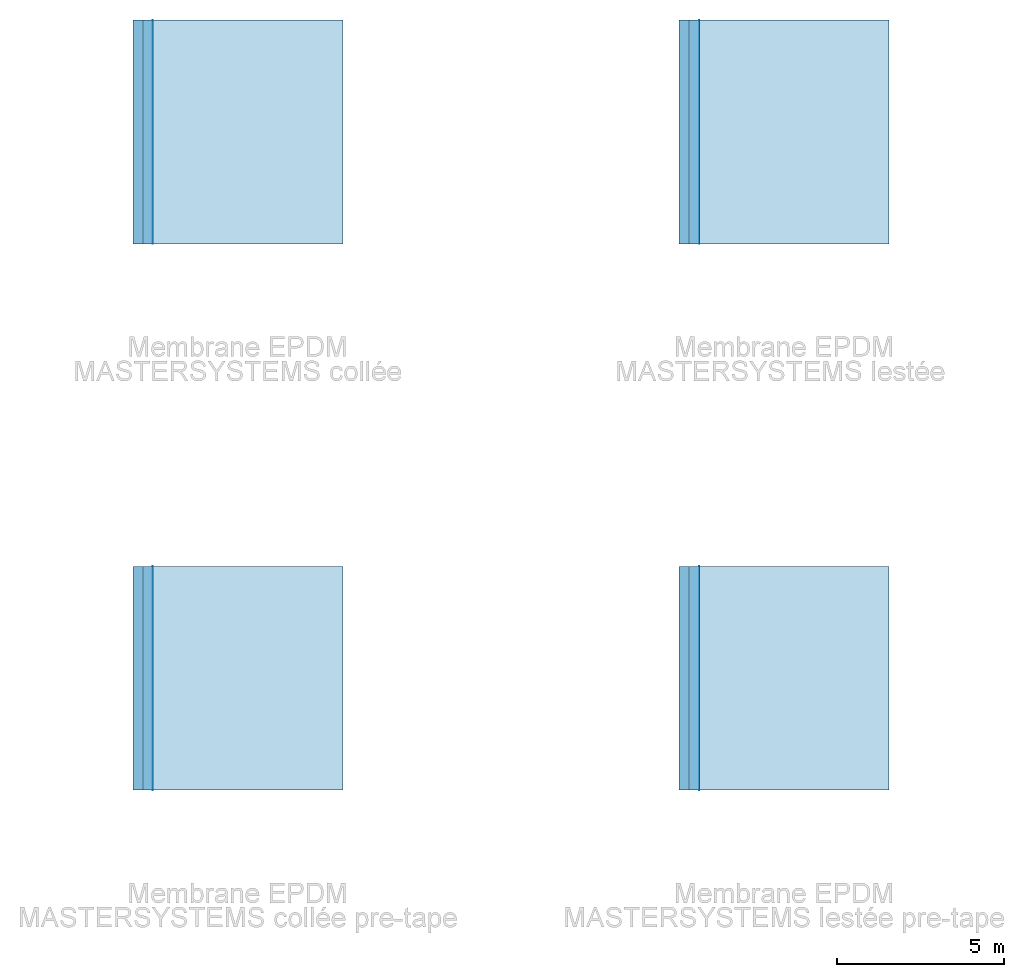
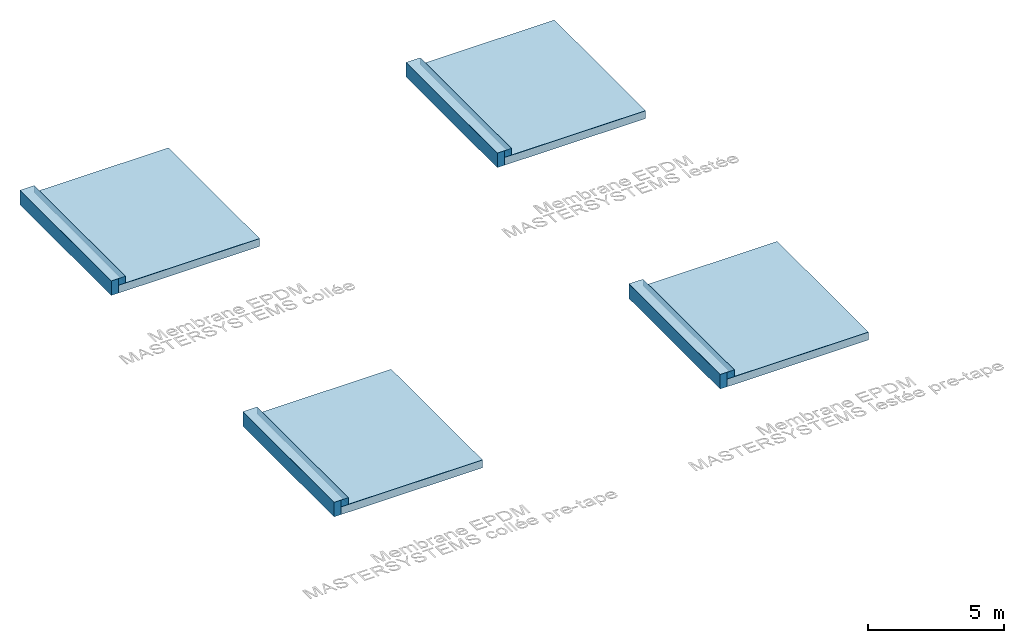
# One storey, incomplete: 12 slabs, 12 walls, 12 elements without a shape of their own.
"""IFC2X3 building model written with IfcOpenShell, lengths in millimetres."""

from ifc_helpers import new_model, entity, si_unit, converted_unit, derived_unit, direction, frame, frame_2d, origin, place, context, subcontext, project, spatial, polyline, rectangle, extrude, clip, bounded_halfspace, material, layer, layer_set, layer_usage, type_object, element, aggregate, save


model = new_model("IFC2X3")

# Units and contexts
model_context = context("Model", 3, precision=0.01, world=origin(), true_north=direction((6.12303176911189e-17, 1.0)))
body_context = subcontext(model_context, "Body", "Model", "MODEL_VIEW")
ifc_project = project(units=[si_unit("LENGTHUNIT", "METRE", prefix="MILLI"), si_unit("AREAUNIT", "SQUARE_METRE"), si_unit("VOLUMEUNIT", "CUBIC_METRE"), converted_unit("PLANEANGLEUNIT", "DEGREE", entity("IfcRatioMeasure", 0.0174532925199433), si_unit("PLANEANGLEUNIT", "RADIAN"), dimensions=[0, 0, 0, 0, 0, 0, 0]), si_unit("MASSUNIT", "GRAM", prefix="KILO"), derived_unit("MASSDENSITYUNIT", [(si_unit("MASSUNIT", "GRAM", prefix="KILO"), 1), (si_unit("LENGTHUNIT", "METRE"), -3)]), derived_unit("MOMENTOFINERTIAUNIT", [(si_unit("LENGTHUNIT", "METRE"), 4)]), si_unit("TIMEUNIT", "SECOND"), si_unit("FREQUENCYUNIT", "HERTZ"), si_unit("THERMODYNAMICTEMPERATUREUNIT", "DEGREE_CELSIUS"), derived_unit("THERMALTRANSMITTANCEUNIT", [(si_unit("MASSUNIT", "GRAM", prefix="KILO"), 1), (si_unit("THERMODYNAMICTEMPERATUREUNIT", "KELVIN"), -1), (si_unit("TIMEUNIT", "SECOND"), -3)]), derived_unit("VOLUMETRICFLOWRATEUNIT", [(si_unit("LENGTHUNIT", "METRE"), 3), (si_unit("TIMEUNIT", "SECOND"), -1)]), si_unit("ELECTRICCURRENTUNIT", "AMPERE"), si_unit("ELECTRICVOLTAGEUNIT", "VOLT"), si_unit("POWERUNIT", "WATT"), si_unit("FORCEUNIT", "NEWTON", prefix="KILO"), si_unit("ILLUMINANCEUNIT", "LUX"), si_unit("LUMINOUSFLUXUNIT", "LUMEN"), si_unit("LUMINOUSINTENSITYUNIT", "CANDELA"), derived_unit("USERDEFINED", [(si_unit("MASSUNIT", "GRAM", prefix="KILO"), -1), (si_unit("LENGTHUNIT", "METRE"), -2), (si_unit("TIMEUNIT", "SECOND"), 3), (si_unit("LUMINOUSFLUXUNIT", "LUMEN"), 1)]), derived_unit("LINEARVELOCITYUNIT", [(si_unit("LENGTHUNIT", "METRE"), 1), (si_unit("TIMEUNIT", "SECOND"), -1)]), si_unit("PRESSUREUNIT", "PASCAL"), derived_unit("USERDEFINED", [(si_unit("LENGTHUNIT", "METRE"), -2), (si_unit("MASSUNIT", "GRAM", prefix="KILO"), 1), (si_unit("TIMEUNIT", "SECOND"), -2)]), derived_unit("LINEARFORCEUNIT", [(si_unit("MASSUNIT", "GRAM", prefix="KILO"), 1), (si_unit("LENGTHUNIT", "METRE"), 1), (si_unit("TIMEUNIT", "SECOND"), -2), (si_unit("LENGTHUNIT", "METRE"), -1)]), derived_unit("PLANARFORCEUNIT", [(si_unit("MASSUNIT", "GRAM", prefix="KILO"), 1), (si_unit("LENGTHUNIT", "METRE"), 1), (si_unit("TIMEUNIT", "SECOND"), -2), (si_unit("LENGTHUNIT", "METRE"), -2)])], contexts=[model_context])

# Site, building, storey
site_placement = place(None, origin())
site = spatial("IfcSite", under=ifc_project, at=site_placement, Name="Default", CompositionType="ELEMENT")
building_placement = place(site_placement, origin())
building = spatial("IfcBuilding", under=site, at=building_placement, CompositionType="ELEMENT")
storey_placement = place(building_placement, origin())
storey = spatial("IfcBuildingStorey", under=building, at=storey_placement, Name="Niveau 1", CompositionType="ELEMENT", Elevation=0.0)

# Roof, slab
roof_1_placement = place(storey_placement, frame((23196.9860757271, 21211.4879507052, 0.0)))
roof_1 = element("IfcRoof", 1, at=roof_1_placement, inside=storey, Name="Toit de base:Membrane MASTERSYSTEMS EPDM lestée", ObjectType="Toit de base:Membrane MASTERSYSTEMS EPDM lestée", ShapeType="NOTDEFINED")
ifc_material_1 = material(Name="Film de protection polyester")
ifc_layer_1 = layer(ifc_material_1, 0.8)
ifc_material_2 = material(Name="Membrane EPDM caoutchouc MASTERSYSTEMS lestée")
ifc_layer_2 = layer(ifc_material_2, 2.2)
ifc_layer_set_1 = layer_set([ifc_layer_1, ifc_layer_2], Name="Toit de base:Membrane MASTERSYSTEMS EPDM lestée")
slab_type_1 = type_object("IfcSlabType", Name="Toit de base:Membrane MASTERSYSTEMS EPDM lestée", PredefinedType="ROOF")
slab_1_placement = place(roof_1_placement, origin())
slab_1 = element("IfcSlab", 2, at=slab_1_placement, type_object=slab_type_1, material=ifc_layer_set_1, Name="Toit de base:Membrane MASTERSYSTEMS EPDM lestée", ObjectType="Toit de base:Membrane MASTERSYSTEMS EPDM lestée", PredefinedType="ROOF", context=body_context, shape_type="SweptSolid", body=[
    extrude(rectangle(XDim=6714.46153846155, YDim=5699.99999999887, at=frame_2d((0.0, 0.0), x_axis=(0.0, 1.0))), frame((2850.0, 3357.23076923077, 0.0)), (0.0, 0.0, 1.0), 3.0),
])
aggregate(roof_1, [slab_1])

roof_2_placement = place(storey_placement, frame((22896.986075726, 21211.4879507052, -350.8)))
roof_2 = element("IfcRoof", 3, at=roof_2_placement, inside=storey, Name="Toit de base:Toit 1", ObjectType="Toit de base:Toit 1", ShapeType="NOTDEFINED")
ifc_material_3 = material(Name="Isolation")
ifc_layer_3 = layer(ifc_material_3, 100.0)
ifc_material_4 = material(Name="Pare vapeur")
ifc_layer_4 = layer(ifc_material_4, 0.8)
ifc_material_5 = material(Name="Béton de pente")
ifc_layer_5 = layer(ifc_material_5, 50.0)
ifc_material_6 = material(Name="Structure porteuse")
ifc_layer_6 = layer(ifc_material_6, 200.0)
ifc_layer_set_2 = layer_set([ifc_layer_3, ifc_layer_4, ifc_layer_5, ifc_layer_6], Name="Toit de base:Toit 1")
slab_type_2 = type_object("IfcSlabType", Name="Toit de base:Toit 1", PredefinedType="ROOF")
slab_2_placement = place(roof_2_placement, origin())
slab_2 = element("IfcSlab", 4, at=slab_2_placement, type_object=slab_type_2, material=ifc_layer_set_2, Name="Toit de base:Toit 1", ObjectType="Toit de base:Toit 1", PredefinedType="ROOF", context=body_context, shape_type="SweptSolid", body=[
    extrude(rectangle(XDim=6000.0, YDim=6714.46153846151, at=frame_2d((0.0, 2.27373675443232e-12), x_axis=(1.0, 0.0))), frame((3000.0, 3357.23076923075, 0.0)), (0.0, 0.0, 1.0), 350.8),
])
aggregate(roof_2, [slab_2])

roof_3_placement = place(storey_placement, frame((22596.9860757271, 21211.4879507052, 300.0)))
roof_3 = element("IfcRoof", 5, at=roof_3_placement, inside=storey, Name="Toit de base:Membrane MASTERSYSTEMS EPDM collée-Relevés et acrotères", ObjectType="Toit de base:Membrane MASTERSYSTEMS EPDM collée-Relevés et acrotères", ShapeType="NOTDEFINED")
ifc_material_7 = material(Name="Membrane EPDM caoutchouc MASTERSYSTEMS collée-Relevés et acrotères")
ifc_layer_7 = layer(ifc_material_7, 2.2)
ifc_material_8 = material(Name="Colle MASTERCONTACT PX300")
ifc_layer_8 = layer(ifc_material_8, 1.1)
ifc_layer_set_3 = layer_set([ifc_layer_7, ifc_layer_8], Name="Toit de base:Membrane MASTERSYSTEMS EPDM collée-Relevés et acrotères")
slab_type_3 = type_object("IfcSlabType", Name="Toit de base:Membrane MASTERSYSTEMS EPDM collée-Relevés et acrotères", PredefinedType="ROOF")
slab_3_placement = place(roof_3_placement, origin())
slab_3 = element("IfcSlab", 6, at=slab_3_placement, type_object=slab_type_3, material=ifc_layer_set_3, Name="Toit de base:Membrane MASTERSYSTEMS EPDM collée-Relevés et acrotères", ObjectType="Toit de base:Membrane MASTERSYSTEMS EPDM collée-Relevés et acrotères", PredefinedType="ROOF", context=body_context, shape_type="SweptSolid", body=[
    extrude(rectangle(XDim=6714.46153846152, YDim=603.299999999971, at=frame_2d((2.18847162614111e-12, 0.0), x_axis=(0.0, 1.0))), frame((301.649999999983, 3357.23076923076, 0.0)), (0.0, 0.0, 1.0), 3.29999999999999),
])
aggregate(roof_3, [slab_3])

roof_4_placement = place(storey_placement, frame((6801.7860757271, 21211.4879507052, 0.0)))
roof_4 = element("IfcRoof", 7, at=roof_4_placement, inside=storey, Name="Toit de base:Membrane MASTERSYSTEMS EPDM collée", ObjectType="Toit de base:Membrane MASTERSYSTEMS EPDM collée", ShapeType="NOTDEFINED")
ifc_material_9 = material(Name="Membrane EPDM caoutchouc MASTERSYSTEMS collée")
ifc_layer_9 = layer(ifc_material_9, 2.2)
ifc_layer_10 = layer(ifc_material_8, 1.1)
ifc_layer_set_4 = layer_set([ifc_layer_9, ifc_layer_10], Name="Toit de base:Membrane MASTERSYSTEMS EPDM collée")
slab_type_4 = type_object("IfcSlabType", Name="Toit de base:Membrane MASTERSYSTEMS EPDM collée", PredefinedType="ROOF")
slab_4_placement = place(roof_4_placement, origin())
slab_4 = element("IfcSlab", 8, at=slab_4_placement, type_object=slab_type_4, material=ifc_layer_set_4, Name="Toit de base:Membrane MASTERSYSTEMS EPDM collée", ObjectType="Toit de base:Membrane MASTERSYSTEMS EPDM collée", PredefinedType="ROOF", context=body_context, shape_type="SweptSolid", body=[
    extrude(rectangle(XDim=6714.46153846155, YDim=5699.99999999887, at=frame_2d((-6.82121026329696e-13, 0.0), x_axis=(0.0, 1.0))), frame((2850.0, 3357.23076923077, 0.0)), (0.0, 0.0, 1.0), 3.3),
])
aggregate(roof_4, [slab_4])

roof_5_placement = place(storey_placement, frame((6501.78607572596, 21211.4879507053, -350.8)))
roof_5 = element("IfcRoof", 9, at=roof_5_placement, inside=storey, Name="Toit de base:Toit 1", ObjectType="Toit de base:Toit 1", ShapeType="NOTDEFINED")
slab_type_5 = type_object("IfcSlabType", Name="Toit de base:Toit 1", PredefinedType="ROOF")
slab_5_placement = place(roof_5_placement, origin())
slab_5 = element("IfcSlab", 10, at=slab_5_placement, type_object=slab_type_5, material=ifc_layer_set_2, Name="Toit de base:Toit 1", ObjectType="Toit de base:Toit 1", PredefinedType="ROOF", context=body_context, shape_type="SweptSolid", body=[
    extrude(rectangle(XDim=6000.0, YDim=6714.46153846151, at=frame_2d((4.54747350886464e-13, 2.27373675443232e-12), x_axis=(1.0, 0.0))), frame((3000.0, 3357.23076923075, 0.0)), (0.0, 0.0, 1.0), 350.8),
])
aggregate(roof_5, [slab_5])

roof_6_placement = place(storey_placement, frame((6201.78607572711, 21211.4879507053, 300.0)))
roof_6 = element("IfcRoof", 11, at=roof_6_placement, inside=storey, Name="Toit de base:Membrane MASTERSYSTEMS EPDM collée-Relevés et acrotères", ObjectType="Toit de base:Membrane MASTERSYSTEMS EPDM collée-Relevés et acrotères", ShapeType="NOTDEFINED")
slab_type_6 = type_object("IfcSlabType", Name="Toit de base:Membrane MASTERSYSTEMS EPDM collée-Relevés et acrotères", PredefinedType="ROOF")
slab_6_placement = place(roof_6_placement, origin())
slab_6 = element("IfcSlab", 12, at=slab_6_placement, type_object=slab_type_6, material=ifc_layer_set_3, Name="Toit de base:Membrane MASTERSYSTEMS EPDM collée-Relevés et acrotères", ObjectType="Toit de base:Membrane MASTERSYSTEMS EPDM collée-Relevés et acrotères", PredefinedType="ROOF", context=body_context, shape_type="SweptSolid", body=[
    extrude(rectangle(XDim=6714.46153846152, YDim=603.299999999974, at=frame_2d((-5.40012479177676e-13, 0.0), x_axis=(0.0, 1.0))), frame((301.649999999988, 3357.23076923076, 0.0)), (0.0, 0.0, 1.0), 3.29999999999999),
])
aggregate(roof_6, [slab_6])

roof_7_placement = place(storey_placement, frame((6801.78607572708, 4816.28795070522, 0.0)))
roof_7 = element("IfcRoof", 13, at=roof_7_placement, inside=storey, Name="Toit de base:Membrane MASTERSYSTEMS EPDM collée Pre-Tape", ObjectType="Toit de base:Membrane MASTERSYSTEMS EPDM collée Pre-Tape", ShapeType="NOTDEFINED")
ifc_material_10 = material(Name="Membrane EPDM caoutchouc MASTERSYSTEMS collée pre-tape")
ifc_layer_11 = layer(ifc_material_10, 2.2)
ifc_layer_12 = layer(ifc_material_8, 1.1)
ifc_layer_set_5 = layer_set([ifc_layer_11, ifc_layer_12], Name="Toit de base:Membrane MASTERSYSTEMS EPDM collée Pre-Tape")
slab_type_7 = type_object("IfcSlabType", Name="Toit de base:Membrane MASTERSYSTEMS EPDM collée Pre-Tape", PredefinedType="ROOF")
slab_7_placement = place(roof_7_placement, origin())
slab_7 = element("IfcSlab", 14, at=slab_7_placement, type_object=slab_type_7, material=ifc_layer_set_5, Name="Toit de base:Membrane MASTERSYSTEMS EPDM collée Pre-Tape", ObjectType="Toit de base:Membrane MASTERSYSTEMS EPDM collée Pre-Tape", PredefinedType="ROOF", context=body_context, shape_type="SweptSolid", body=[
    extrude(rectangle(XDim=6714.46153846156, YDim=5699.99999999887, at=frame_2d((-6.82121026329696e-13, 4.54747350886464e-13), x_axis=(0.0, 1.0))), frame((2850.0, 3357.23076923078, 0.0)), (0.0, 0.0, 1.0), 3.3),
])
aggregate(roof_7, [slab_7])

roof_8_placement = place(storey_placement, frame((6501.78607572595, 4816.28795070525, -350.8)))
roof_8 = element("IfcRoof", 15, at=roof_8_placement, inside=storey, Name="Toit de base:Toit 1", ObjectType="Toit de base:Toit 1", ShapeType="NOTDEFINED")
slab_type_8 = type_object("IfcSlabType", Name="Toit de base:Toit 1", PredefinedType="ROOF")
slab_8_placement = place(roof_8_placement, origin())
slab_8 = element("IfcSlab", 16, at=slab_8_placement, type_object=slab_type_8, material=ifc_layer_set_2, Name="Toit de base:Toit 1", ObjectType="Toit de base:Toit 1", PredefinedType="ROOF", context=body_context, shape_type="SweptSolid", body=[
    extrude(rectangle(XDim=6000.0, YDim=6714.46153846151, at=frame_2d((4.54747350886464e-13, -4.54747350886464e-13), x_axis=(1.0, 0.0))), frame((3000.0, 3357.23076923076, 0.0)), (0.0, 0.0, 1.0), 350.8),
])
aggregate(roof_8, [slab_8])

roof_9_placement = place(storey_placement, frame((6201.78607572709, 4816.28795070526, 300.0)))
roof_9 = element("IfcRoof", 17, at=roof_9_placement, inside=storey, Name="Toit de base:Membrane MASTERSYSTEMS EPDM collée-Relevés et acrotères", ObjectType="Toit de base:Membrane MASTERSYSTEMS EPDM collée-Relevés et acrotères", ShapeType="NOTDEFINED")
slab_type_9 = type_object("IfcSlabType", Name="Toit de base:Membrane MASTERSYSTEMS EPDM collée-Relevés et acrotères", PredefinedType="ROOF")
slab_9_placement = place(roof_9_placement, origin())
slab_9 = element("IfcSlab", 18, at=slab_9_placement, type_object=slab_type_9, material=ifc_layer_set_3, Name="Toit de base:Membrane MASTERSYSTEMS EPDM collée-Relevés et acrotères", ObjectType="Toit de base:Membrane MASTERSYSTEMS EPDM collée-Relevés et acrotères", PredefinedType="ROOF", context=body_context, shape_type="SweptSolid", body=[
    extrude(rectangle(XDim=6714.46153846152, YDim=603.299999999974, at=frame_2d((-5.40012479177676e-13, -9.09494701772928e-13), x_axis=(0.0, 1.0))), frame((301.649999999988, 3357.23076923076, 0.0)), (0.0, 0.0, 1.0), 3.29999999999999),
])
aggregate(roof_9, [slab_9])

roof_10_placement = place(storey_placement, frame((23196.9860757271, 4816.28795070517, 0.0)))
roof_10 = element("IfcRoof", 19, at=roof_10_placement, inside=storey, Name="Toit de base:Membrane MASTERSYSTEMS EPDM lestée Pre-tape", ObjectType="Toit de base:Membrane MASTERSYSTEMS EPDM lestée Pre-tape", ShapeType="NOTDEFINED")
ifc_layer_13 = layer(ifc_material_1, 0.8)
ifc_material_11 = material(Name="Membrane EPDM caoutchouc MASTERSYSTEMS lestée pre-tape")
ifc_layer_14 = layer(ifc_material_11, 2.2)
ifc_layer_set_6 = layer_set([ifc_layer_13, ifc_layer_14], Name="Toit de base:Membrane MASTERSYSTEMS EPDM lestée Pre-tape")
slab_type_10 = type_object("IfcSlabType", Name="Toit de base:Membrane MASTERSYSTEMS EPDM lestée Pre-tape", PredefinedType="ROOF")
slab_10_placement = place(roof_10_placement, origin())
slab_10 = element("IfcSlab", 20, at=slab_10_placement, type_object=slab_type_10, material=ifc_layer_set_6, Name="Toit de base:Membrane MASTERSYSTEMS EPDM lestée Pre-tape", ObjectType="Toit de base:Membrane MASTERSYSTEMS EPDM lestée Pre-tape", PredefinedType="ROOF", context=body_context, shape_type="SweptSolid", body=[
    extrude(rectangle(XDim=6714.46153846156, YDim=5699.99999999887, at=frame_2d((0.0, -6.82121026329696e-13), x_axis=(0.0, 1.0))), frame((2850.0, 3357.23076923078, 0.0)), (0.0, 0.0, 1.0), 3.0),
])
aggregate(roof_10, [slab_10])

roof_11_placement = place(storey_placement, frame((22896.9860757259, 4816.2879507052, -350.8)))
roof_11 = element("IfcRoof", 21, at=roof_11_placement, inside=storey, Name="Toit de base:Toit 1", ObjectType="Toit de base:Toit 1", ShapeType="NOTDEFINED")
slab_type_11 = type_object("IfcSlabType", Name="Toit de base:Toit 1", PredefinedType="ROOF")
slab_11_placement = place(roof_11_placement, origin())
slab_11 = element("IfcSlab", 22, at=slab_11_placement, type_object=slab_type_11, material=ifc_layer_set_2, Name="Toit de base:Toit 1", ObjectType="Toit de base:Toit 1", PredefinedType="ROOF", context=body_context, shape_type="SweptSolid", body=[
    extrude(rectangle(XDim=6000.0, YDim=6714.46153846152, at=frame_2d((0.0, -1.59161572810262e-12), x_axis=(1.0, 0.0))), frame((3000.0, 3357.23076923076, 0.0)), (0.0, 0.0, 1.0), 350.8),
])
aggregate(roof_11, [slab_11])

roof_12_placement = place(storey_placement, frame((22596.9860757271, 4816.28795070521, 300.0)))
roof_12 = element("IfcRoof", 23, at=roof_12_placement, inside=storey, Name="Toit de base:Membrane MASTERSYSTEMS EPDM collée-Relevés et acrotères", ObjectType="Toit de base:Membrane MASTERSYSTEMS EPDM collée-Relevés et acrotères", ShapeType="NOTDEFINED")
slab_type_12 = type_object("IfcSlabType", Name="Toit de base:Membrane MASTERSYSTEMS EPDM collée-Relevés et acrotères", PredefinedType="ROOF")
slab_12_placement = place(roof_12_placement, origin())
slab_12 = element("IfcSlab", 24, at=slab_12_placement, type_object=slab_type_12, material=ifc_layer_set_3, Name="Toit de base:Membrane MASTERSYSTEMS EPDM collée-Relevés et acrotères", ObjectType="Toit de base:Membrane MASTERSYSTEMS EPDM collée-Relevés et acrotères", PredefinedType="ROOF", context=body_context, shape_type="SweptSolid", body=[
    extrude(rectangle(XDim=6714.46153846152, YDim=603.299999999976, at=frame_2d((0.0, 0.0), x_axis=(0.0, 1.0))), frame((301.649999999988, 3357.23076923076, 0.0)), (0.0, 0.0, 1.0), 3.29999999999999),
])
aggregate(roof_12, [slab_12])

# Walls
ifc_layer_15 = layer(ifc_material_3, 100.0)
ifc_material_12 = material(Name="Maçonnerie ascendante")
ifc_layer_16 = layer(ifc_material_12, 200.0)
ifc_layer_set_7 = layer_set([ifc_layer_15, ifc_layer_16], Name="Mur de base:Mur 1")
ifc_layer_usage_1 = layer_usage(ifc_layer_set_7, "AXIS2", "NEGATIVE", 150.0)
wall_type_1 = type_object("IfcWallType", Name="Mur de base:Mur 1", PredefinedType="STANDARD", material=ifc_layer_set_7)
wall_1_placement = place(storey_placement, frame((22746.9860757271, 27925.9494891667, -350.8), z_axis=(0.0, 0.0, 1.0), x_axis=(0.0, -1.0, 0.0)))
element("IfcWallStandardCase", 25, at=wall_1_placement, inside=storey, type_object=wall_type_1, material=ifc_layer_usage_1, Name="Mur de base:Mur 1", ObjectType="Mur de base:Mur 1", context=body_context, shape_type="Clipping", body=[
    clip(extrude(rectangle(XDim=6714.46153846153, YDim=300.000000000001, at=frame_2d((3357.23076923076, 5.40012479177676e-13), x_axis=(-1.0, 0.0))), origin(), (0.0, 0.0, 1.0), 650.8), bounded_halfspace(frame((0.0, -150.0, 650.8), z_axis=(0.0, 0.0, 1.0), x_axis=(0.0, 1.0, 0.0)), False, frame((0.0, -150.0, 650.8)), polyline([(0.0, 0.0), (6714.46153846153, 0.0), (6714.46153846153, 300.0), (0.0, 300.0), (0.0, 0.0)]))),
])
ifc_layer_usage_2 = layer_usage(ifc_layer_set_7, "AXIS2", "NEGATIVE", 150.0)
wall_2_placement = place(storey_placement, frame((23046.9860757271, 27925.9494891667, 0.0), z_axis=(0.0, 0.0, 1.0), x_axis=(0.0, -1.0, 0.0)))
element("IfcWallStandardCase", 26, at=wall_2_placement, inside=storey, type_object=wall_type_1, material=ifc_layer_usage_2, Name="Mur de base:Mur 1", ObjectType="Mur de base:Mur 1", context=body_context, shape_type="Clipping", body=[
    clip(extrude(rectangle(XDim=6714.46153846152, YDim=300.000000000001, at=frame_2d((3357.23076923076, 5.40012479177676e-13), x_axis=(-1.0, 0.0))), origin(), (0.0, 0.0, 1.0), 300.0), bounded_halfspace(frame((0.0, -150.0, 300.0), z_axis=(0.0, 0.0, 1.0), x_axis=(0.0, 1.0, 0.0)), False, frame((0.0, -150.0, 300.0)), polyline([(0.0, 0.0), (6714.46153846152, 0.0), (6714.46153846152, 300.0), (0.0, 300.0), (0.0, 0.0)]))),
])
ifc_layer_usage_3 = layer_usage(ifc_layer_set_7, "AXIS2", "NEGATIVE", 150.0)
wall_3_placement = place(storey_placement, frame((6351.78607572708, 27925.9494891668, -350.8), z_axis=(0.0, 0.0, 1.0), x_axis=(0.0, -1.0, 0.0)))
element("IfcWallStandardCase", 27, at=wall_3_placement, inside=storey, type_object=wall_type_1, material=ifc_layer_usage_3, Name="Mur de base:Mur 1", ObjectType="Mur de base:Mur 1", context=body_context, shape_type="SweptSolid", body=[
    extrude(rectangle(XDim=6714.46153846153, YDim=300.000000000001, at=frame_2d((3357.23076923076, 0.0), x_axis=(-1.0, 0.0))), origin(), (0.0, 0.0, 1.0), 650.8),
])
ifc_layer_usage_4 = layer_usage(ifc_layer_set_7, "AXIS2", "NEGATIVE", 150.0)
wall_4_placement = place(storey_placement, frame((6651.7860757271, 27925.9494891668, 0.0), z_axis=(0.0, 0.0, 1.0), x_axis=(0.0, -1.0, 0.0)))
element("IfcWallStandardCase", 28, at=wall_4_placement, inside=storey, type_object=wall_type_1, material=ifc_layer_usage_4, Name="Mur de base:Mur 1", ObjectType="Mur de base:Mur 1", context=body_context, shape_type="SweptSolid", body=[
    extrude(rectangle(XDim=6714.46153846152, YDim=300.000000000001, at=frame_2d((3357.23076923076, 0.0), x_axis=(-1.0, 0.0))), origin(), (0.0, 0.0, 1.0), 300.0),
])
ifc_layer_usage_5 = layer_usage(ifc_layer_set_7, "AXIS2", "NEGATIVE", 150.0)
wall_5_placement = place(storey_placement, frame((6351.78607572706, 11530.7494891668, -350.8), z_axis=(0.0, 0.0, 1.0), x_axis=(0.0, -1.0, 0.0)))
element("IfcWallStandardCase", 29, at=wall_5_placement, inside=storey, type_object=wall_type_1, material=ifc_layer_usage_5, Name="Mur de base:Mur 1", ObjectType="Mur de base:Mur 1", context=body_context, shape_type="SweptSolid", body=[
    extrude(rectangle(XDim=6714.46153846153, YDim=300.000000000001, at=frame_2d((3357.23076923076, 0.0), x_axis=(-1.0, 0.0))), origin(), (0.0, 0.0, 1.0), 650.8),
])
ifc_layer_usage_6 = layer_usage(ifc_layer_set_7, "AXIS2", "NEGATIVE", 150.0)
wall_6_placement = place(storey_placement, frame((6651.78607572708, 11530.7494891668, 0.0), z_axis=(0.0, 0.0, 1.0), x_axis=(0.0, -1.0, 0.0)))
element("IfcWallStandardCase", 30, at=wall_6_placement, inside=storey, type_object=wall_type_1, material=ifc_layer_usage_6, Name="Mur de base:Mur 1", ObjectType="Mur de base:Mur 1", context=body_context, shape_type="SweptSolid", body=[
    extrude(rectangle(XDim=6714.46153846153, YDim=300.000000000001, at=frame_2d((3357.23076923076, 0.0), x_axis=(-1.0, 0.0))), origin(), (0.0, 0.0, 1.0), 300.0),
])
ifc_layer_usage_7 = layer_usage(ifc_layer_set_7, "AXIS2", "NEGATIVE", 150.0)
wall_7_placement = place(storey_placement, frame((22746.9860757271, 11530.7494891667, -350.8), z_axis=(0.0, 0.0, 1.0), x_axis=(0.0, -1.0, 0.0)))
element("IfcWallStandardCase", 31, at=wall_7_placement, inside=storey, type_object=wall_type_1, material=ifc_layer_usage_7, Name="Mur de base:Mur 1", ObjectType="Mur de base:Mur 1", context=body_context, shape_type="SweptSolid", body=[
    extrude(rectangle(XDim=6714.46153846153, YDim=300.000000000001, at=frame_2d((3357.23076923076, 5.40012479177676e-13), x_axis=(-1.0, 0.0))), origin(), (0.0, 0.0, 1.0), 650.8),
])
ifc_layer_usage_8 = layer_usage(ifc_layer_set_7, "AXIS2", "NEGATIVE", 150.0)
wall_8_placement = place(storey_placement, frame((23046.9860757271, 11530.7494891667, 0.0), z_axis=(0.0, 0.0, 1.0), x_axis=(0.0, -1.0, 0.0)))
element("IfcWallStandardCase", 32, at=wall_8_placement, inside=storey, type_object=wall_type_1, material=ifc_layer_usage_8, Name="Mur de base:Mur 1", ObjectType="Mur de base:Mur 1", context=body_context, shape_type="SweptSolid", body=[
    extrude(rectangle(XDim=6714.46153846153, YDim=300.000000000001, at=frame_2d((3357.23076923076, 5.40012479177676e-13), x_axis=(-1.0, 0.0))), origin(), (0.0, 0.0, 1.0), 300.0),
])
ifc_layer_17 = layer(ifc_material_7, 2.2)
ifc_layer_18 = layer(ifc_material_8, 1.1)
ifc_layer_set_8 = layer_set([ifc_layer_17, ifc_layer_18], Name="Mur de base:Membrane MASTERSYSTEMS EPDM collée-Relevés et acrotères")
ifc_layer_usage_9 = layer_usage(ifc_layer_set_8, "AXIS2", "NEGATIVE", 1.65)
wall_type_2 = type_object("IfcWallType", Name="Mur de base:Membrane MASTERSYSTEMS EPDM collée-Relevés et acrotères", PredefinedType="STANDARD", material=ifc_layer_set_8)
wall_9_placement = place(storey_placement, frame((23198.6360757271, 21211.4879507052, 3.0), z_axis=(0.0, 0.0, 1.0), x_axis=(0.0, 1.0, 0.0)))
element("IfcWallStandardCase", 33, at=wall_9_placement, inside=storey, type_object=wall_type_2, material=ifc_layer_usage_9, Name="Mur de base:Membrane MASTERSYSTEMS EPDM collée-Relevés et acrotères", ObjectType="Mur de base:Membrane MASTERSYSTEMS EPDM collée-Relevés et acrotères", context=body_context, shape_type="Clipping", body=[
    clip(extrude(rectangle(XDim=6714.46153846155, YDim=3.29999999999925, at=frame_2d((3357.23076923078, 3.9235281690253e-13), x_axis=(-1.0, 0.0))), origin(), (0.0, 0.0, 1.0), 297.0), bounded_halfspace(frame((0.0, -1.65000000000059, 297.0), z_axis=(0.0, 0.0, 1.0), x_axis=(0.0, -1.0, 0.0)), False, frame((0.0, -1.65000000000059, 297.0)), polyline([(0.0, 0.0), (6714.46153846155, 0.0), (6714.46153846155, 3.30000000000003), (0.0, 3.29999999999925), (0.0, 0.0)]))),
])
ifc_layer_usage_10 = layer_usage(ifc_layer_set_8, "AXIS2", "NEGATIVE", 1.65)
wall_10_placement = place(storey_placement, frame((6803.43607572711, 21211.4879507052, 3.29999999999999), z_axis=(0.0, 0.0, 1.0), x_axis=(0.0, 1.0, 0.0)))
element("IfcWallStandardCase", 34, at=wall_10_placement, inside=storey, type_object=wall_type_2, material=ifc_layer_usage_10, Name="Mur de base:Membrane MASTERSYSTEMS EPDM collée-Relevés et acrotères", ObjectType="Mur de base:Membrane MASTERSYSTEMS EPDM collée-Relevés et acrotères", context=body_context, shape_type="SweptSolid", body=[
    extrude(rectangle(XDim=6714.46153846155, YDim=3.29999999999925, at=frame_2d((3357.23076923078, -1.49102952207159e-13), x_axis=(-1.0, 0.0))), origin(), (0.0, 0.0, 1.0), 296.7),
])
ifc_layer_usage_11 = layer_usage(ifc_layer_set_8, "AXIS2", "NEGATIVE", 1.65)
wall_11_placement = place(storey_placement, frame((6803.43607572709, 4816.28795070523, 3.29999999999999), z_axis=(0.0, 0.0, 1.0), x_axis=(0.0, 1.0, 0.0)))
element("IfcWallStandardCase", 35, at=wall_11_placement, inside=storey, type_object=wall_type_2, material=ifc_layer_usage_11, Name="Mur de base:Membrane MASTERSYSTEMS EPDM collée-Relevés et acrotères", ObjectType="Mur de base:Membrane MASTERSYSTEMS EPDM collée-Relevés et acrotères", context=body_context, shape_type="SweptSolid", body=[
    extrude(rectangle(XDim=6714.46153846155, YDim=3.29999999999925, at=frame_2d((3357.23076923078, -1.49102952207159e-13), x_axis=(-1.0, 0.0))), origin(), (0.0, 0.0, 1.0), 296.7),
])
ifc_layer_usage_12 = layer_usage(ifc_layer_set_8, "AXIS2", "NEGATIVE", 1.65)
wall_12_placement = place(storey_placement, frame((23198.6360757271, 4816.28795070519, 3.0), z_axis=(0.0, 0.0, 1.0), x_axis=(0.0, 1.0, 0.0)))
element("IfcWallStandardCase", 36, at=wall_12_placement, inside=storey, type_object=wall_type_2, material=ifc_layer_usage_12, Name="Mur de base:Membrane MASTERSYSTEMS EPDM collée-Relevés et acrotères", ObjectType="Mur de base:Membrane MASTERSYSTEMS EPDM collée-Relevés et acrotères", context=body_context, shape_type="SweptSolid", body=[
    extrude(rectangle(XDim=6714.46153846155, YDim=3.29999999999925, at=frame_2d((3357.23076923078, 3.9235281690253e-13), x_axis=(-1.0, 0.0))), origin(), (0.0, 0.0, 1.0), 297.0),
])

save(model, "model.ifc")
